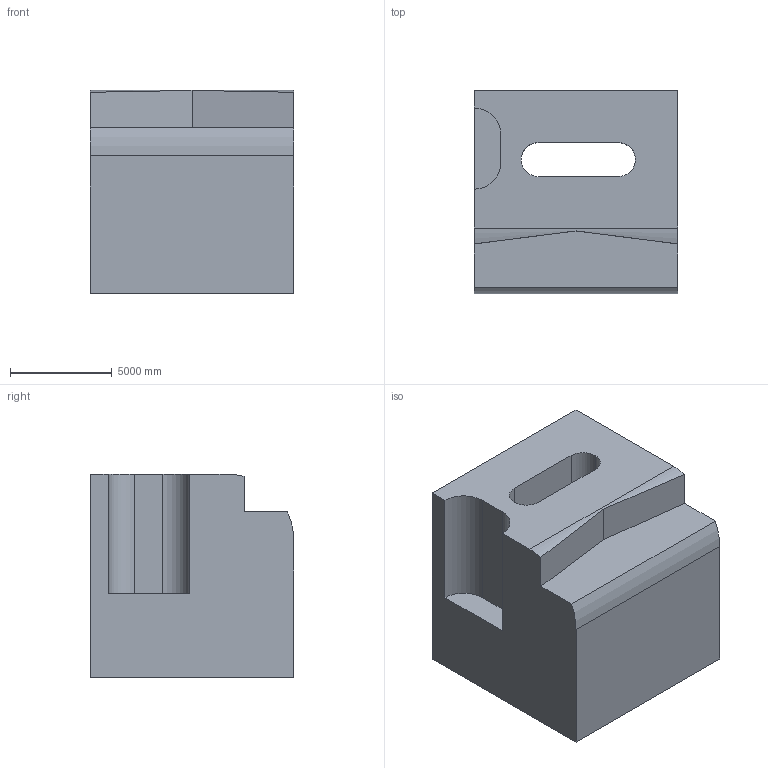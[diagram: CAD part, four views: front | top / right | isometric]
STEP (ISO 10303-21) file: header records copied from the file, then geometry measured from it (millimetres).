
FILE_DESCRIPTION (( 'STEP AP203' ), '1' );
FILE_NAME ('1323.STEP', '2022-08-18T13:46:12', ( 'user' ), ( '' ), 'SwSTEP 2.0', 'SolidWorks 2021', '' );
FILE_SCHEMA (( 'CONFIG_CONTROL_DESIGN' ));
Length unit declared in the file: centimetre
Products named in the file (1): 1323
Bounding box: 10000 x 10000 x 10000 mm (x, y, z)
Volume: 833279214383.2 mm3; surface area: 710364723.2 mm2
Topology: 1 solids, 1 shells, 20 faces, 54 edges, 36 vertices
Faces by surface type: plane 13, cylinder 7
Entity records: 713 total; most frequent: CARTESIAN_POINT 117, ORIENTED_EDGE 108, DIRECTION 108, EDGE_CURVE 54, LINE 38, VECTOR 38, VERTEX_POINT 36, AXIS2_PLACEMENT_3D 35
